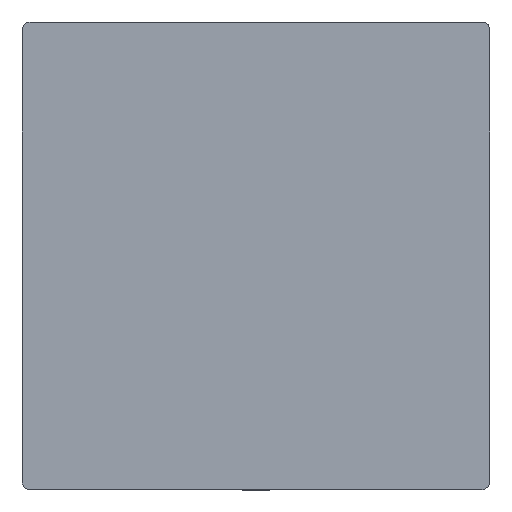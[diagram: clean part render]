
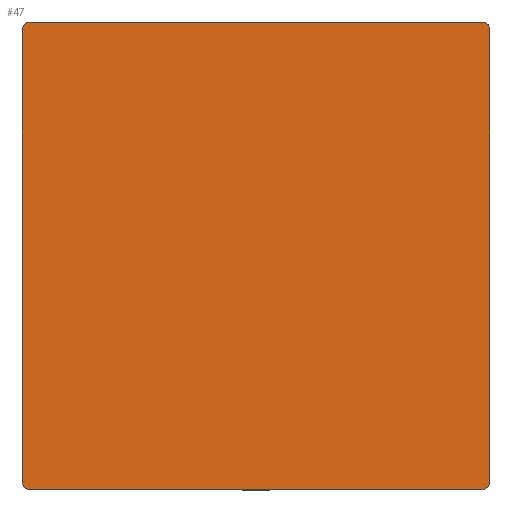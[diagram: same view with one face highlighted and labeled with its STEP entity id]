
A CAD part, top view. The second image highlights one B-rep face of the part: STEP entity #47.
In plain terms, the highlighted planar face has unit normal (0, 0, 1).
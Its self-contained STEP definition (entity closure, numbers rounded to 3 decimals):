
#12=(
BOUNDED_CURVE()
B_SPLINE_CURVE(2,(#552,#553,#554),.UNSPECIFIED.,.F.,.F.)
B_SPLINE_CURVE_WITH_KNOTS((3,3),(0.,15.708),.UNSPECIFIED.)
CURVE()
GEOMETRIC_REPRESENTATION_ITEM()
RATIONAL_B_SPLINE_CURVE((1.,0.707,1.))
REPRESENTATION_ITEM('')
);
#14=(
BOUNDED_CURVE()
B_SPLINE_CURVE(2,(#558,#559,#560),.UNSPECIFIED.,.F.,.F.)
B_SPLINE_CURVE_WITH_KNOTS((3,3),(-15.708,0.),.UNSPECIFIED.)
CURVE()
GEOMETRIC_REPRESENTATION_ITEM()
RATIONAL_B_SPLINE_CURVE((1.,0.707,1.))
REPRESENTATION_ITEM('')
);
#16=(
BOUNDED_CURVE()
B_SPLINE_CURVE(2,(#564,#565,#566),.UNSPECIFIED.,.F.,.F.)
B_SPLINE_CURVE_WITH_KNOTS((3,3),(0.,15.708),.UNSPECIFIED.)
CURVE()
GEOMETRIC_REPRESENTATION_ITEM()
RATIONAL_B_SPLINE_CURVE((1.,0.707,1.))
REPRESENTATION_ITEM('')
);
#18=(
BOUNDED_CURVE()
B_SPLINE_CURVE(2,(#570,#571,#572),.UNSPECIFIED.,.F.,.F.)
B_SPLINE_CURVE_WITH_KNOTS((3,3),(0.,15.708),.UNSPECIFIED.)
CURVE()
GEOMETRIC_REPRESENTATION_ITEM()
RATIONAL_B_SPLINE_CURVE((1.,0.707,1.))
REPRESENTATION_ITEM('')
);
#47=ADVANCED_FACE('',(#69),#329,.T.);
#69=FACE_OUTER_BOUND('',#91,.T.);
#91=EDGE_LOOP('',(#159,#160,#161,#162,#163,#164,#165,#166));
#159=ORIENTED_EDGE('',*,*,#226,.T.);
#160=ORIENTED_EDGE('',*,*,#238,.T.);
#161=ORIENTED_EDGE('',*,*,#220,.T.);
#162=ORIENTED_EDGE('',*,*,#236,.T.);
#163=ORIENTED_EDGE('',*,*,#222,.T.);
#164=ORIENTED_EDGE('',*,*,#240,.T.);
#165=ORIENTED_EDGE('',*,*,#224,.T.);
#166=ORIENTED_EDGE('',*,*,#242,.T.);
#220=EDGE_CURVE('',#302,#301,#268,.T.);
#222=EDGE_CURVE('',#306,#305,#270,.T.);
#224=EDGE_CURVE('',#310,#309,#272,.T.);
#226=EDGE_CURVE('',#314,#313,#274,.T.);
#236=EDGE_CURVE('',#301,#306,#12,.T.);
#238=EDGE_CURVE('',#313,#302,#14,.T.);
#240=EDGE_CURVE('',#305,#310,#16,.T.);
#242=EDGE_CURVE('',#309,#314,#18,.T.);
#268=B_SPLINE_CURVE_WITH_KNOTS('',1,(#519,#520),.UNSPECIFIED.,.F.,.F.,(2,
2),(5.292,312.208),.UNSPECIFIED.);
#270=B_SPLINE_CURVE_WITH_KNOTS('',1,(#523,#524),.UNSPECIFIED.,.F.,.F.,(2,
2),(322.792,629.708),.UNSPECIFIED.);
#272=B_SPLINE_CURVE_WITH_KNOTS('',1,(#527,#528),.UNSPECIFIED.,.F.,.F.,(2,
2),(640.292,947.208),.UNSPECIFIED.);
#274=B_SPLINE_CURVE_WITH_KNOTS('',1,(#531,#532),.UNSPECIFIED.,.F.,.F.,(2,
2),(957.792,1264.708),.UNSPECIFIED.);
#301=VERTEX_POINT('',#503);
#302=VERTEX_POINT('',#504);
#305=VERTEX_POINT('',#507);
#306=VERTEX_POINT('',#508);
#309=VERTEX_POINT('',#511);
#310=VERTEX_POINT('',#512);
#313=VERTEX_POINT('',#515);
#314=VERTEX_POINT('',#516);
#329=PLANE('',#367);
#367=AXIS2_PLACEMENT_3D('',#473,#388,$);
#388=DIRECTION('',(0.,0.,1.));
#473=CARTESIAN_POINT('',(-376.686,-281.441,360.));
#503=CARTESIAN_POINT('',(213.314,-281.441,360.));
#504=CARTESIAN_POINT('',(-366.686,-281.441,360.));
#507=CARTESIAN_POINT('',(223.314,308.559,360.));
#508=CARTESIAN_POINT('',(223.314,-271.441,360.));
#511=CARTESIAN_POINT('',(-366.686,318.559,360.));
#512=CARTESIAN_POINT('',(213.314,318.559,360.));
#515=CARTESIAN_POINT('',(-376.686,-271.441,360.));
#516=CARTESIAN_POINT('',(-376.686,308.559,360.));
#519=CARTESIAN_POINT('',(-366.686,-281.441,360.));
#520=CARTESIAN_POINT('',(213.314,-281.441,360.));
#523=CARTESIAN_POINT('',(223.314,-271.441,360.));
#524=CARTESIAN_POINT('',(223.314,308.559,360.));
#527=CARTESIAN_POINT('',(213.314,318.559,360.));
#528=CARTESIAN_POINT('',(-366.686,318.559,360.));
#531=CARTESIAN_POINT('',(-376.686,308.559,360.));
#532=CARTESIAN_POINT('',(-376.686,-271.441,360.));
#552=CARTESIAN_POINT('',(213.314,-281.441,360.));
#553=CARTESIAN_POINT('',(223.314,-281.441,360.));
#554=CARTESIAN_POINT('',(223.314,-271.441,360.));
#558=CARTESIAN_POINT('',(-376.686,-271.441,360.));
#559=CARTESIAN_POINT('',(-376.686,-281.441,360.));
#560=CARTESIAN_POINT('',(-366.686,-281.441,360.));
#564=CARTESIAN_POINT('',(223.314,308.559,360.));
#565=CARTESIAN_POINT('',(223.314,318.559,360.));
#566=CARTESIAN_POINT('',(213.314,318.559,360.));
#570=CARTESIAN_POINT('',(-366.686,318.559,360.));
#571=CARTESIAN_POINT('',(-376.686,318.559,360.));
#572=CARTESIAN_POINT('',(-376.686,308.559,360.));
